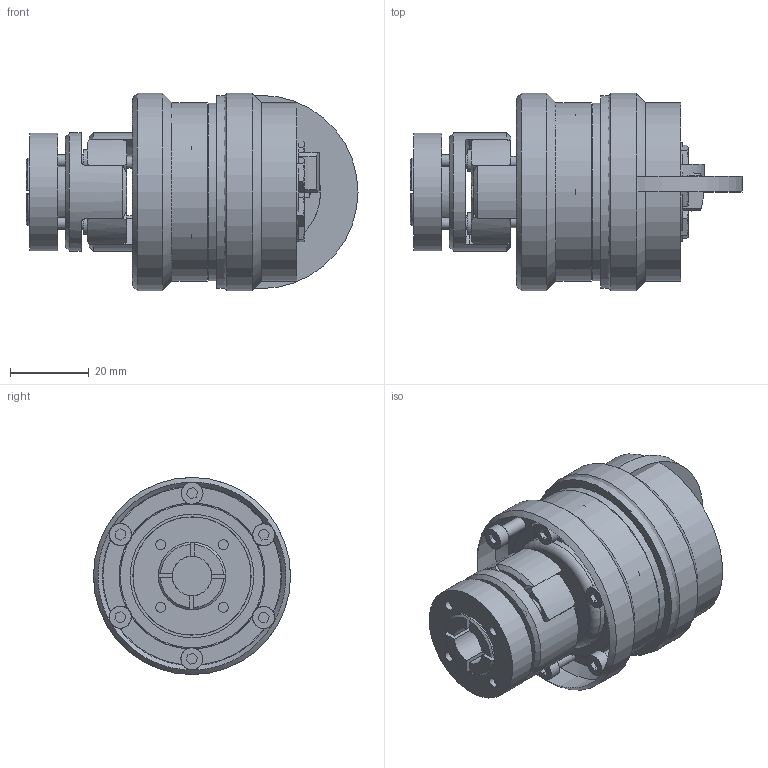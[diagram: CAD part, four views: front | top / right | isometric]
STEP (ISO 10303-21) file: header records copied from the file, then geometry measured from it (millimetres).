
FILE_DESCRIPTION( ( 'Unknown' ), '1' );
FILE_NAME( 'C:/Dokumente und Einstellungen/Sven/Desktop/hp kbk/E-AA/KBK EAA 14-70.stp', 'Unknown', ( 'Unknown' ), ( 'Unknown' ), 'XStep 1.0', 'Unknown', ' ' );
FILE_SCHEMA( ( 'automotive_design' ) );
Length unit declared in the file: millimetre
Products named in the file (19): Assem1; Assem2; Assem3; Assem4; Zylinderschraube DIN 912; ball_bearing_-_61904_0_01; ball_bearing_-_61904_0_02; ball_bearing_-_61904_0_03; Stellring 10; Druckring 10; a_20; Flansch L-LL10; Elastomerflansch EK 10; Zahnkranz_14_Standard; KBE3-14_Druckring; L-A-10 Grundteil; Druckring L-A-10; din_en_24017_m5x12; KBE 3 C - 14 Nabe
Bounding box: 84.2 x 50 x 50 mm (x, y, z)
Volume: 139132.3 mm3; surface area: 96430.9 mm2
Topology: 49 solids, 49 shells, 938 faces, 2104 edges, 1347 vertices
Faces by surface type: plane 413, cylinder 286, cone 197, torus 42
Full cylindrical faces by diameter (mm): 2 x4, 2.459 x20, 2.5 x8, 2.85 x8, 3 x21, 3.4 x12, 4.134 x12, 5 x7, 5.5 x25, 5.6 x12, 6 x10, 6.88 x7, 10 x8, 14 x2, 15 x2, 18.4 x2, 19 x2, 20 x7, 24 x4, 25 x2, 25.6 x6, 29 x2, 29.993 x2, 30 x6, 31.4 x6, 37 x7, 38 x2, 40 x4, 45 x2, 45.2 x2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
Entity records: 9962 total; most frequent: CARTESIAN_POINT 1911, DIRECTION 1634, ORIENTED_EDGE 1222, AXIS2_PLACEMENT_3D 752, EDGE_CURVE 611, EDGE_LOOP 552, VERTEX_POINT 453, FACE_OUTER_BOUND 433
